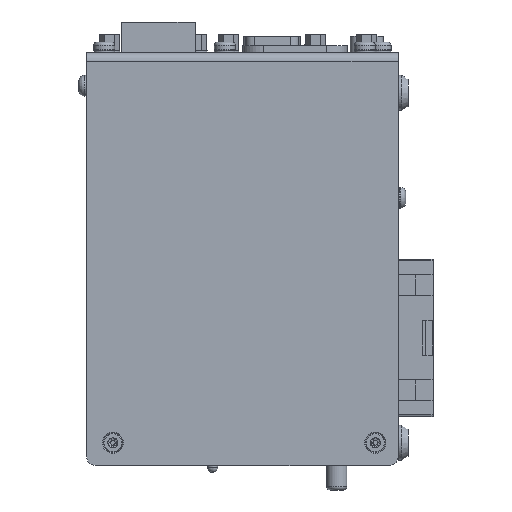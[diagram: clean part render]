
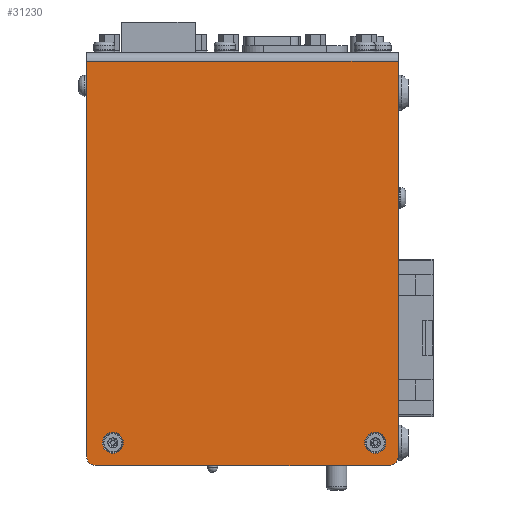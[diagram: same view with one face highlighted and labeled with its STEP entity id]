
A CAD part, left-side view. The second image highlights one B-rep face of the part: STEP entity #31230.
In plain terms, the highlighted planar face has unit normal (-1, 0, 0).
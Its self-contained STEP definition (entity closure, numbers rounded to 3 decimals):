
#3465=LINE('',#52534,#6177);
#3467=LINE('',#52538,#6179);
#3468=LINE('',#52540,#6180);
#3469=LINE('',#52542,#6181);
#6177=VECTOR('',#40758,10.);
#6179=VECTOR('',#40762,1.655);
#6180=VECTOR('',#40763,10.);
#6181=VECTOR('',#40764,1.655);
#6817=FACE_BOUND('',#10318,.T.);
#6818=FACE_BOUND('',#10319,.T.);
#8356=FACE_OUTER_BOUND('',#10317,.T.);
#10317=EDGE_LOOP('',(#25806,#25807,#25808,#25809,#25810,#25811));
#10318=EDGE_LOOP('',(#25812,#25813));
#10319=EDGE_LOOP('',(#25814,#25815));
#11349=CIRCLE('',#33630,2.5);
#11350=CIRCLE('',#33633,2.5);
#11351=CIRCLE('',#33634,3.);
#11352=CIRCLE('',#33635,3.);
#11353=CIRCLE('',#33636,3.);
#11354=CIRCLE('',#33637,3.);
#13894=VERTEX_POINT('',#52527);
#13895=VERTEX_POINT('',#52529);
#13896=VERTEX_POINT('',#52533);
#13897=VERTEX_POINT('',#52537);
#13898=VERTEX_POINT('',#52539);
#13899=VERTEX_POINT('',#52541);
#13900=VERTEX_POINT('',#52544);
#13901=VERTEX_POINT('',#52545);
#13902=VERTEX_POINT('',#52548);
#13903=VERTEX_POINT('',#52549);
#17921=EDGE_CURVE('',#13894,#13895,#11349,.T.);
#17923=EDGE_CURVE('',#13896,#13895,#3465,.T.);
#17925=EDGE_CURVE('',#13897,#13894,#3467,.T.);
#17926=EDGE_CURVE('',#13897,#13898,#3468,.T.);
#17927=EDGE_CURVE('',#13898,#13899,#3469,.T.);
#17928=EDGE_CURVE('',#13896,#13899,#11350,.T.);
#17929=EDGE_CURVE('',#13900,#13901,#11351,.T.);
#17930=EDGE_CURVE('',#13901,#13900,#11352,.T.);
#17931=EDGE_CURVE('',#13902,#13903,#11353,.T.);
#17932=EDGE_CURVE('',#13903,#13902,#11354,.T.);
#25806=ORIENTED_EDGE('',*,*,#17921,.F.);
#25807=ORIENTED_EDGE('',*,*,#17925,.F.);
#25808=ORIENTED_EDGE('',*,*,#17926,.T.);
#25809=ORIENTED_EDGE('',*,*,#17927,.T.);
#25810=ORIENTED_EDGE('',*,*,#17928,.F.);
#25811=ORIENTED_EDGE('',*,*,#17923,.T.);
#25812=ORIENTED_EDGE('',*,*,#17929,.T.);
#25813=ORIENTED_EDGE('',*,*,#17930,.T.);
#25814=ORIENTED_EDGE('',*,*,#17931,.T.);
#25815=ORIENTED_EDGE('',*,*,#17932,.T.);
#27823=PLANE('',#33632);
#31230=ADVANCED_FACE('',(#8356,#6817,#6818),#27823,.T.);
#33630=AXIS2_PLACEMENT_3D('',#52530,#40753,#40754);
#33632=AXIS2_PLACEMENT_3D('',#52536,#40760,#40761);
#33633=AXIS2_PLACEMENT_3D('',#52543,#40765,#40766);
#33634=AXIS2_PLACEMENT_3D('',#52546,#40767,#40768);
#33635=AXIS2_PLACEMENT_3D('',#52547,#40769,#40770);
#33636=AXIS2_PLACEMENT_3D('',#52550,#40771,#40772);
#33637=AXIS2_PLACEMENT_3D('',#52551,#40773,#40774);
#40753=DIRECTION('center_axis',(1.,0.,0.));
#40754=DIRECTION('ref_axis',(0.,-0.707,-0.707));
#40758=DIRECTION('',(0.,-1.,0.));
#40760=DIRECTION('center_axis',(-1.,0.,0.));
#40761=DIRECTION('ref_axis',(0.,0.,
1.));
#40762=DIRECTION('',(0.,0.,-1.));
#40763=DIRECTION('',(0.,1.,0.));
#40764=DIRECTION('',(0.,0.,-1.));
#40765=DIRECTION('center_axis',(1.,0.,0.));
#40766=DIRECTION('ref_axis',(0.,0.707,-0.707));
#40767=DIRECTION('center_axis',(1.,0.,0.));
#40768=DIRECTION('ref_axis',(0.,0.,
1.));
#40769=DIRECTION('center_axis',(1.,0.,0.));
#40770=DIRECTION('ref_axis',(0.,0.,
1.));
#40771=DIRECTION('center_axis',(1.,0.,0.));
#40772=DIRECTION('ref_axis',(0.,0.,
1.));
#40773=DIRECTION('center_axis',(1.,0.,0.));
#40774=DIRECTION('ref_axis',(0.,0.,
1.));
#52527=CARTESIAN_POINT('',(-42.75,-44.5,-114.));
#52529=CARTESIAN_POINT('',(-42.75,-42.,-116.5));
#52530=CARTESIAN_POINT('Origin',(-42.75,-42.,-114.));
#52533=CARTESIAN_POINT('',(-42.75,42.,-116.5));
#52534=CARTESIAN_POINT('',(-42.75,44.5,-116.5));
#52536=CARTESIAN_POINT('Origin',(-42.75,0.,
-57.45));
#52537=CARTESIAN_POINT('',(-42.75,-44.5,-1.));
#52538=CARTESIAN_POINT('',(-42.75,-44.5,4.2));
#52539=CARTESIAN_POINT('',(-42.75,44.5,-1.));
#52540=CARTESIAN_POINT('',(-42.75,0.,-1.));
#52541=CARTESIAN_POINT('',(-42.75,44.5,-114.));
#52542=CARTESIAN_POINT('',(-42.75,44.5,4.2));
#52543=CARTESIAN_POINT('Origin',(-42.75,42.,-114.));
#52544=CARTESIAN_POINT('',(-42.75,37.,-107.));
#52545=CARTESIAN_POINT('',(-42.75,37.,-113.));
#52546=CARTESIAN_POINT('Origin',(-42.75,37.,-110.));
#52547=CARTESIAN_POINT('Origin',(-42.75,37.,-110.));
#52548=CARTESIAN_POINT('',(-42.75,-38.,-107.));
#52549=CARTESIAN_POINT('',(-42.75,-38.,-113.));
#52550=CARTESIAN_POINT('Origin',(-42.75,-38.,-110.));
#52551=CARTESIAN_POINT('Origin',(-42.75,-38.,-110.));
